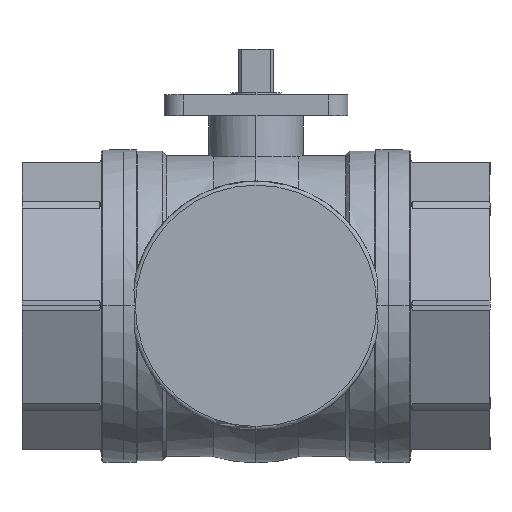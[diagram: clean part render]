
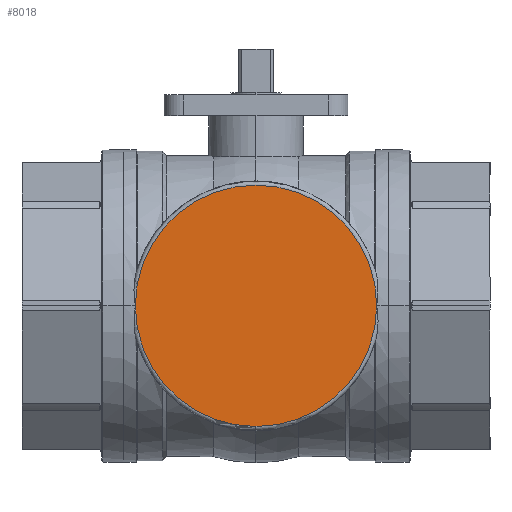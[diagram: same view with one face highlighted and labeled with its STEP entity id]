
A CAD part, top view. The second image highlights one B-rep face of the part: STEP entity #8018.
In plain terms, the highlighted planar face has unit normal (0, 0, 1).
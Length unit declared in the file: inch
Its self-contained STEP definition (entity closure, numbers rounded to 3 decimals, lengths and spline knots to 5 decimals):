
#37 = EDGE_CURVE ( 'NONE', #873, #9797, #2344, .T. ) ;
#824 = DIRECTION ( 'NONE',  ( 0., 0., 1. ) ) ;
#873 = VERTEX_POINT ( 'NONE', #9364 ) ;
#1607 = PLANE ( 'NONE',  #6599 ) ;
#1815 = EDGE_LOOP ( 'NONE', ( #7647, #6499, #8013 ) ) ;
#1908 = EDGE_CURVE ( 'NONE', #9797, #9544, #9617, .T. ) ;
#2344 = CIRCLE ( 'NONE', #9069, 1.85217 ) ;
#2391 = CIRCLE ( 'NONE', #4381, 1.85217 ) ;
#2949 = FACE_OUTER_BOUND ( 'NONE', #1815, .T. ) ;
#3132 = CARTESIAN_POINT ( 'NONE',  ( 0., 0., 2.4 ) ) ;
#3147 = EDGE_CURVE ( 'NONE', #9544, #873, #2391, .T. ) ;
#3345 = AXIS2_PLACEMENT_3D ( 'NONE', #3132, #8787, #3931 ) ;
#3516 = DIRECTION ( 'NONE',  ( 0., 0., 1. ) ) ;
#3612 = DIRECTION ( 'NONE',  ( 0., 0., 1. ) ) ;
#3931 = DIRECTION ( 'NONE',  ( 0., -1., 0. ) ) ;
#4018 = CARTESIAN_POINT ( 'NONE',  ( 0., 0., 2.4 ) ) ;
#4381 = AXIS2_PLACEMENT_3D ( 'NONE', #8353, #3516, #9173 ) ;
#5255 = CARTESIAN_POINT ( 'NONE',  ( 0., -1.85217, 2.4 ) ) ;
#6451 = DIRECTION ( 'NONE',  ( 0., -1., 0. ) ) ;
#6499 = ORIENTED_EDGE ( 'NONE', *, *, #1908, .T. ) ;
#6599 = AXIS2_PLACEMENT_3D ( 'NONE', #4018, #824, #6451 ) ;
#7304 = CARTESIAN_POINT ( 'NONE',  ( 1.85217, 0., 2.4 ) ) ;
#7647 = ORIENTED_EDGE ( 'NONE', *, *, #37, .T. ) ;
#8013 = ORIENTED_EDGE ( 'NONE', *, *, #3147, .T. ) ;
#8018 = ADVANCED_FACE ( 'NONE', ( #2949 ), #1607, .T. ) ;
#8353 = CARTESIAN_POINT ( 'NONE',  ( 0., 0., 2.4 ) ) ;
#8457 = CARTESIAN_POINT ( 'NONE',  ( 0., 0., 2.4 ) ) ;
#8787 = DIRECTION ( 'NONE',  ( 0., 0., 1. ) ) ;
#9069 = AXIS2_PLACEMENT_3D ( 'NONE', #8457, #3612, #9275 ) ;
#9173 = DIRECTION ( 'NONE',  ( 0., -1., 0. ) ) ;
#9275 = DIRECTION ( 'NONE',  ( 0., -1., 0. ) ) ;
#9364 = CARTESIAN_POINT ( 'NONE',  ( -1.85217, 0., 2.4 ) ) ;
#9544 = VERTEX_POINT ( 'NONE', #7304 ) ;
#9617 = CIRCLE ( 'NONE', #3345, 1.85217 ) ;
#9797 = VERTEX_POINT ( 'NONE', #5255 ) ;
